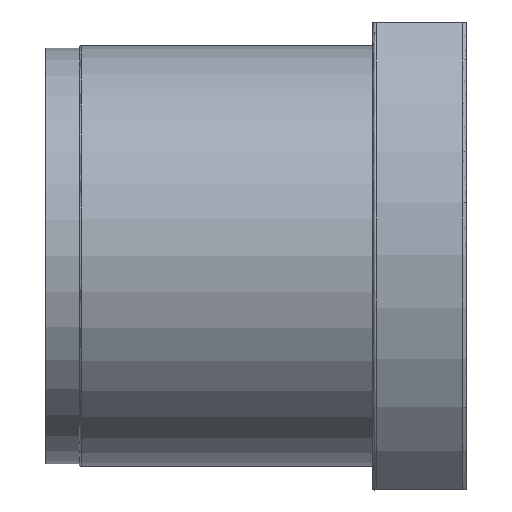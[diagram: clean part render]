
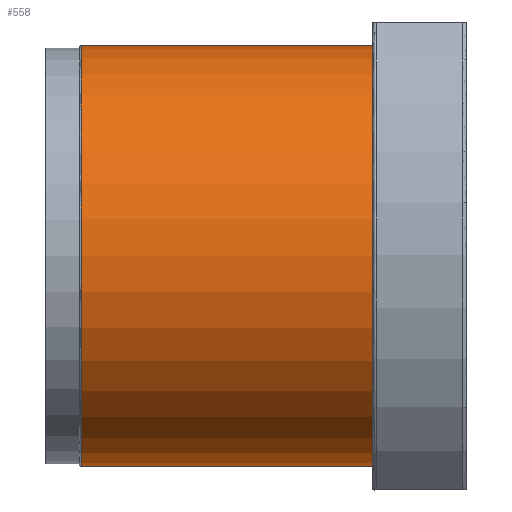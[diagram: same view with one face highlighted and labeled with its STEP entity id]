
A CAD part, top view. The second image highlights one B-rep face of the part: STEP entity #558.
In plain terms, the highlighted cylindrical face has radius 31.5 mm (diameter 63 mm), a partial arc.
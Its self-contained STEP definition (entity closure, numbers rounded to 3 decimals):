
#107 = DIRECTION ( 'NONE',  ( 1., 0., 0. ) ) ;
#127 = CARTESIAN_POINT ( 'NONE',  ( -35.19, 0., 0. ) ) ;
#219 = CARTESIAN_POINT ( 'NONE',  ( -78.89, 0., 0. ) ) ;
#232 = CYLINDRICAL_SURFACE ( 'NONE', #1900, 31.5 ) ;
#267 = EDGE_CURVE ( 'NONE', #1526, #1169, #2009, .T. ) ;
#328 = ORIENTED_EDGE ( 'NONE', *, *, #1935, .F. ) ;
#333 = EDGE_LOOP ( 'NONE', ( #2571, #2483, #802, #328 ) ) ;
#447 = VECTOR ( 'NONE', #801, 1000. ) ;
#505 = DIRECTION ( 'NONE',  ( 0., -1., 0. ) ) ;
#558 = ADVANCED_FACE ( 'NONE', ( #1659 ), #232, .T. ) ;
#752 = VERTEX_POINT ( 'NONE', #1020 ) ;
#769 = CARTESIAN_POINT ( 'NONE',  ( -78.89, -31.5, 0. ) ) ;
#801 = DIRECTION ( 'NONE',  ( 1., 0., 0. ) ) ;
#802 = ORIENTED_EDGE ( 'NONE', *, *, #2123, .F. ) ;
#822 = CARTESIAN_POINT ( 'NONE',  ( -78.89, 31.5, 0. ) ) ;
#1020 = CARTESIAN_POINT ( 'NONE',  ( -35.19, -31.5, 0. ) ) ;
#1024 = AXIS2_PLACEMENT_3D ( 'NONE', #127, #107, #505 ) ;
#1119 = LINE ( 'NONE', #1918, #447 ) ;
#1169 = VERTEX_POINT ( 'NONE', #769 ) ;
#1217 = AXIS2_PLACEMENT_3D ( 'NONE', #1262, #2073, #2059 ) ;
#1246 = DIRECTION ( 'NONE',  ( 1., 0., 0. ) ) ;
#1253 = DIRECTION ( 'NONE',  ( 0., 1., 0. ) ) ;
#1262 = CARTESIAN_POINT ( 'NONE',  ( -78.89, 0., 0. ) ) ;
#1320 = EDGE_CURVE ( 'NONE', #1169, #752, #2251, .T. ) ;
#1526 = VERTEX_POINT ( 'NONE', #822 ) ;
#1629 = VECTOR ( 'NONE', #1246, 1000. ) ;
#1636 = VERTEX_POINT ( 'NONE', #1869 ) ;
#1659 = FACE_OUTER_BOUND ( 'NONE', #333, .T. ) ;
#1869 = CARTESIAN_POINT ( 'NONE',  ( -35.19, 31.5, 0. ) ) ;
#1900 = AXIS2_PLACEMENT_3D ( 'NONE', #219, #2449, #1253 ) ;
#1918 = CARTESIAN_POINT ( 'NONE',  ( -78.89, 31.5, 0. ) ) ;
#1935 = EDGE_CURVE ( 'NONE', #1526, #1636, #1119, .T. ) ;
#2009 = CIRCLE ( 'NONE', #1217, 31.5 ) ;
#2059 = DIRECTION ( 'NONE',  ( 0., 1., 0. ) ) ;
#2073 = DIRECTION ( 'NONE',  ( 1., 0., 0. ) ) ;
#2084 = CARTESIAN_POINT ( 'NONE',  ( -78.89, -31.5, 0. ) ) ;
#2123 = EDGE_CURVE ( 'NONE', #1636, #752, #2240, .T. ) ;
#2240 = CIRCLE ( 'NONE', #1024, 31.5 ) ;
#2251 = LINE ( 'NONE', #2084, #1629 ) ;
#2449 = DIRECTION ( 'NONE',  ( 1., 0., 0. ) ) ;
#2483 = ORIENTED_EDGE ( 'NONE', *, *, #1320, .T. ) ;
#2571 = ORIENTED_EDGE ( 'NONE', *, *, #267, .T. ) ;
